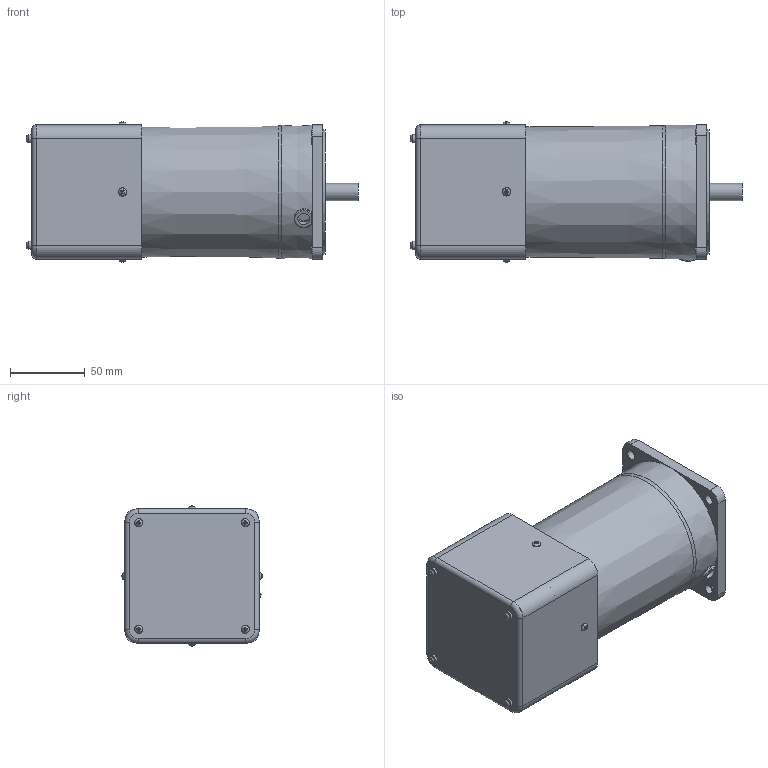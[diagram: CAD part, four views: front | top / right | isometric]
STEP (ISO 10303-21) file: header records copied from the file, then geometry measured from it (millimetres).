
FILE_DESCRIPTION((''),'2;1');
FILE_NAME('D:\yang\Yang cw\SPG 업무\2. DC MOTOR\7. DC MOTOR 브로슈어\AC MOTOR\90각 180W\STEP\S9I(R)180G-V.stp','2015-03-31T08:33:32',('ycw1227'),(''),'Autodesk Inventor 2013','Autodesk Inventor 2013','');
FILE_SCHEMA(('AUTOMOTIVE_DESIGN { 1 0 10303 214 1 1 1 1 }'));
Length unit declared in the file: millimetre
Products named in the file (1): 부품9
Bounding box: 222.55 x 93.89 x 93.89 mm (x, y, z)
Volume: 1084782.3 mm3; surface area: 110389.4 mm2
Topology: 1 solids, 7 shells, 282 faces, 675 edges, 435 vertices
Faces by surface type: plane 173, cylinder 69, torus 26, bspline 8, cone 6
Full cylindrical faces by diameter (mm): 3 x8, 4.5 x4, 5.6 x12, 6.5 x4, 8 x1, 9.5 x4, 10 x1, 11.5 x1, 40 x1, 83.5 x1
Entity records: 8601 total; most frequent: CARTESIAN_POINT 2144, DIRECTION 1216, ORIENTED_EDGE 1186, EDGE_CURVE 593, AXIS2_PLACEMENT_3D 449, VERTEX_POINT 422, EDGE_LOOP 397, VECTOR 318
